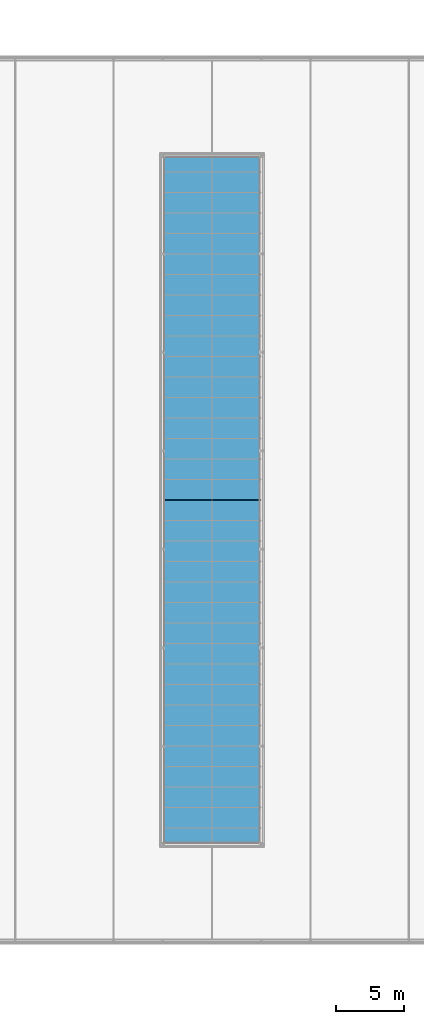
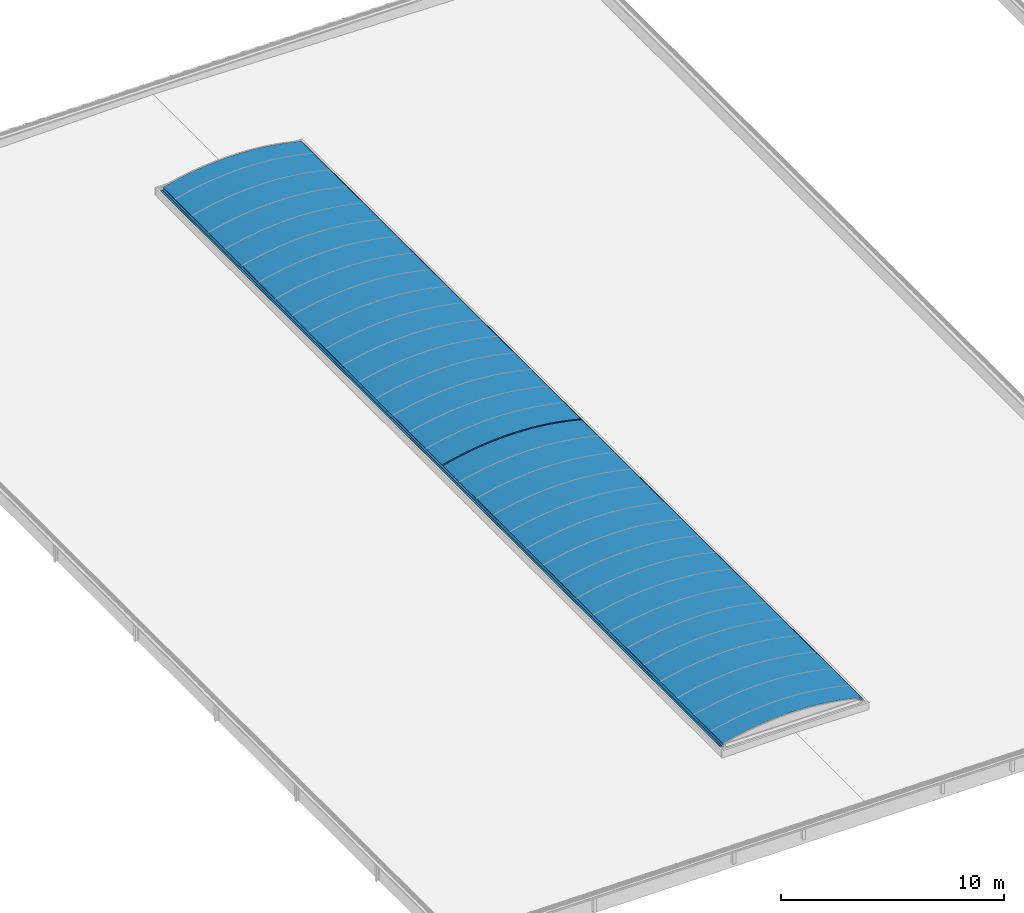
# One storey, part 41 of 81: 2 beams.
"""IFC2X3 building model written with IfcOpenShell, lengths in millimetres."""

import ifcopenshell
import ifcopenshell.guid

model = None  # the IFC model being written
_history = None  # IfcOwnerHistory: only IFC2X3 demands one
_inside = {}  # id of a spatial element -> (the spatial element, [elements in it])
_under = {}  # id of a project, library or spatial element -> (it, [spatial elements below it])
_declared = {}  # id of a project -> (the project, [libraries it declares])
_typed = {}  # id of a type object -> (the type object, [elements of that type])
_made_of = {}  # id of a material, layer set ... -> (it, [elements and type objects made of it])


def new_model(schema):
    """Start an empty IFC model of exactly this schema.

    Asked for "IFC4X3", IfcOpenShell would pick the latest addendum, in which some entities
    have other attributes; the version numbers below select the first issue.
    IFC2X3 requires an IfcOwnerHistory on every rooted entity: one is made here for all.
    """
    global model, _history
    if schema == "IFC4X3":
        model = ifcopenshell.file(schema_version=(4, 3, 0, 0))
    else:
        model = ifcopenshell.file(schema=schema)
    _inside.clear()
    _under.clear()
    _declared.clear()
    _typed.clear()
    _made_of.clear()
    _history = None
    if model.schema == "IFC2X3":
        org = make("IfcOrganization", Name="unknown")
        user = make(
            "IfcPersonAndOrganization",
            ThePerson=make("IfcPerson", FamilyName="unknown"),
            TheOrganization=org,
        )
        app = make(
            "IfcApplication",
            ApplicationDeveloper=org,
            Version="unknown",
            ApplicationFullName="unknown",
            ApplicationIdentifier="unknown",
        )
        _history = make(
            "IfcOwnerHistory",
            OwningUser=user,
            OwningApplication=app,
            ChangeAction="ADDED",
            CreationDate=0,
        )
    return model


def make(cls, **values):
    """One entity of the class cls with the attributes given. An attribute that is None is left unset."""
    return model.create_entity(
        cls, **{name: value for name, value in values.items() if value is not None}
    )


def entity(cls, *values):
    """Any entity or typed value of the class cls, its attributes in the order of the schema. None: left unset."""
    e = model.create_entity(cls)
    for i, value in enumerate(values):
        if value is not None:
            e[i] = value
    return e


def rooted(cls, **values):
    """An entity with a GlobalId (a new one), such as an element, a storey or a relation."""
    return make(cls, GlobalId=ifcopenshell.guid.new(), OwnerHistory=_history, **values)


def si_unit(unit_type, name, prefix=None):
    """IfcSIUnit, for example si_unit("LENGTHUNIT", "METRE", prefix="MILLI")."""
    return make("IfcSIUnit", UnitType=unit_type, Prefix=prefix, Name=name)


def converted_unit(unit_type, name, factor, base, dimensions=None, offset=None):
    """IfcConversionBasedUnit, such as the inch: factor (a typed value) times the base unit."""
    return make(
        "IfcConversionBasedUnit"
        if offset is None
        else "IfcConversionBasedUnitWithOffset",
        ConversionOffset=offset,
        Dimensions=None
        if dimensions is None
        else entity("IfcDimensionalExponents", *dimensions),
        UnitType=unit_type,
        Name=name,
        ConversionFactor=make(
            "IfcMeasureWithUnit", ValueComponent=factor, UnitComponent=base
        ),
    )


def derived_unit(unit_type, elements):
    """IfcDerivedUnit: a product of units, each with its exponent."""
    return make(
        "IfcDerivedUnit",
        Elements=[
            make("IfcDerivedUnitElement", Unit=unit, Exponent=power)
            for unit, power in elements
        ],
        UnitType=unit_type,
    )


def money_unit(currency):
    """IfcMonetaryUnit."""
    return make("IfcMonetaryUnit", Currency=currency)


def assignment(units):
    """IfcUnitAssignment: the units of a project."""
    return None if units is None else make("IfcUnitAssignment", Units=units)


def point(xyz):
    """IfcCartesianPoint."""
    return None if xyz is None else make("IfcCartesianPoint", Coordinates=xyz)


def direction(xyz):
    """IfcDirection."""
    return None if xyz is None else make("IfcDirection", DirectionRatios=xyz)


def frame(location, z_axis=None, x_axis=None):
    """IfcAxis2Placement3D, a coordinate frame: its origin and axes. An axis left out is left unset."""
    return make(
        "IfcAxis2Placement3D",
        Location=point(location),
        Axis=direction(z_axis),
        RefDirection=direction(x_axis),
    )


def origin_with_axes():
    """The frame at (0, 0, 0) with the z axis (0, 0, 1) and the x axis (1, 0, 0) written out."""
    return frame((0.0, 0.0, 0.0), z_axis=(0.0, 0.0, 1.0), x_axis=(1.0, 0.0, 0.0))


def place(relative_to, where):
    """IfcLocalPlacement: puts the frame where relative to a parent placement (None: the world)."""
    return make(
        "IfcLocalPlacement", PlacementRelTo=relative_to, RelativePlacement=where
    )


def context(
    kind, dimensions, precision=None, world=None, true_north=None, identifier=None
):
    """IfcGeometricRepresentationContext, for example the 3D "Model" context."""
    return make(
        "IfcGeometricRepresentationContext",
        ContextIdentifier=identifier,
        ContextType=kind,
        CoordinateSpaceDimension=dimensions,
        Precision=precision,
        WorldCoordinateSystem=world,
        TrueNorth=true_north,
    )


def subcontext(parent, identifier, kind, view, scale=None):
    """IfcGeometricRepresentationSubContext, for example "Body" below "Model"."""
    return make(
        "IfcGeometricRepresentationSubContext",
        ContextIdentifier=identifier,
        ContextType=kind,
        ParentContext=parent,
        TargetScale=scale,
        TargetView=view,
    )


def project(units=None, contexts=None):
    """IfcProject with its units and contexts."""
    return rooted(
        "IfcProject",
        Name="project",
        RepresentationContexts=contexts,
        UnitsInContext=assignment(units),
    )


def spatial(cls, under=None, at=None, **own):
    """A site, building, storey or space (cls), placed at a placement, below another one or the project."""
    s = rooted(cls, ObjectPlacement=at, **own)
    if under is not None:
        _under.setdefault(under.id(), (under, []))[1].append(s)
    return s


def faces_of(points, faces, orient=None, outer=None):
    """IfcFace entities. A face is a list of loops; a loop is a list of indices into points, from 0.

    orient and outer hold one flag for each loop. By default every Orientation is true, the
    first loop of a face is its IfcFaceOuterBound and the others are IfcFaceBound.
    """
    made = []
    for i, loops in enumerate(faces):
        bounds = []
        for j, loop in enumerate(loops):
            is_outer = j == 0 if outer is None else outer[i][j]
            bounds.append(
                make(
                    "IfcFaceOuterBound" if is_outer else "IfcFaceBound",
                    Bound=make("IfcPolyLoop", Polygon=[points[k] for k in loop]),
                    Orientation=True if orient is None else orient[i][j],
                )
            )
        made.append(make("IfcFace", Bounds=bounds))
    return made


def faceted_brep(points, faces, orient=None, outer=None, voids=None):
    """IfcFacetedBrep: a solid bounded by flat faces; with voids (closed shells), ...WithVoids."""
    shared = [point(p) for p in points]
    hull = make("IfcClosedShell", CfsFaces=faces_of(shared, faces, orient, outer))
    if voids is None:
        return make("IfcFacetedBrep", Outer=hull)
    return make(
        "IfcFacetedBrepWithVoids",
        Outer=hull,
        Voids=[
            make(cls, CfsFaces=faces_of(shared, fs, o, b)) for cls, fs, o, b in voids
        ],
    )


def shape(context_of_items, identifier, shape_type, items):
    """IfcShapeRepresentation: the items that make up one representation, for example the "Body"."""
    return make(
        "IfcShapeRepresentation",
        ContextOfItems=context_of_items,
        RepresentationIdentifier=identifier,
        RepresentationType=shape_type,
        Items=items,
    )


def material(Name=None, Category=None):
    """IfcMaterial."""
    return make("IfcMaterial", Name=Name, Category=Category)


def material_list(materials):
    """IfcMaterialList."""
    return make("IfcMaterialList", Materials=materials)


def made_of(thing, what):
    """Note that an element or type object is made of a material, layer set ...; save() writes the relation."""
    if what is not None:
        _made_of.setdefault(what.id(), (what, []))[1].append(thing)
    return thing


def type_object(cls, material=None, **own):
    """A type object (cls), such as IfcWallType, which elements share."""
    return made_of(rooted(cls, **own), material)


def element(
    cls,
    number,
    at=None,
    inside=None,
    cuts=None,
    type_object=None,
    material=None,
    context=None,
    identifier="Body",
    shape_type=None,
    held_by="IfcProductDefinitionShape",
    body=None,
    shapes=None,
    **own,
):
    """One element of the class cls, such as IfcWall. Its Tag is "e" and its number.

    at: its placement. inside: the storey or other place that contains it. cuts: it is an
    opening in that element (IfcRelVoidsElement). A single representation is given by context,
    identifier, shape_type and body (its items); several are given by shapes. held_by: the class
    of the entity that holds the representations. save() writes the other relations.
    """
    e = rooted(cls, Tag="e%d" % number, ObjectPlacement=at, **own)
    if body is not None:
        shapes = [shape(context, identifier, shape_type, body)]
    if shapes is not None:
        e.Representation = make(held_by, Representations=shapes)
    if inside is not None:
        _inside.setdefault(inside.id(), (inside, []))[1].append(e)
    if cuts is not None:
        rooted(
            "IfcRelVoidsElement", RelatingBuildingElement=cuts, RelatedOpeningElement=e
        )
    if type_object is not None:
        _typed.setdefault(type_object.id(), (type_object, []))[1].append(e)
    return made_of(e, material)


def aggregate(whole, parts):
    """IfcRelAggregates: a whole, such as a stair, and the parts it consists of."""
    return rooted("IfcRelAggregates", RelatingObject=whole, RelatedObjects=parts)


def save(model, path):
    """Write the relations noted so far, then the file.

    IfcRelAggregates (storeys below a building ...), IfcRelContainedInSpatialStructure (elements
    in a storey), IfcRelDefinesByType, IfcRelAssociatesMaterial and IfcRelDeclares: one each for
    every whole, place, type object, material and project.
    """
    for whole, parts in _under.values():
        aggregate(whole, parts)
    for where, things in _inside.values():
        rooted(
            "IfcRelContainedInSpatialStructure",
            RelatedElements=things,
            RelatingStructure=where,
        )
    for kind, things in _typed.values():
        rooted("IfcRelDefinesByType", RelatedObjects=things, RelatingType=kind)
    for what, things in _made_of.values():
        rooted("IfcRelAssociatesMaterial", RelatedObjects=things, RelatingMaterial=what)
    for by, libraries in _declared.values():
        rooted("IfcRelDeclares", RelatingContext=by, RelatedDefinitions=libraries)
    model.write(path)


model = new_model("IFC2X3")

# Units and contexts
model_context = context("Model", 3, precision=0.01, world=origin_with_axes(), true_north=direction((0.0, 1.0)))
body_context = subcontext(model_context, "Body", "Model", "MODEL_VIEW")
ifc_project = project(units=[si_unit("LENGTHUNIT", "METRE", prefix="MILLI"), si_unit("AREAUNIT", "SQUARE_METRE"), si_unit("VOLUMEUNIT", "CUBIC_METRE"), converted_unit("PLANEANGLEUNIT", "DEGREE", entity("IfcPlaneAngleMeasure", 0.0174532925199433), si_unit("PLANEANGLEUNIT", "RADIAN"), dimensions=[0, 0, 0, 0, 0, 0, 0]), money_unit("EUR"), converted_unit("TIMEUNIT", "Year", entity("IfcTimeMeasure", 31557600.0), si_unit("TIMEUNIT", "SECOND"), dimensions=[0, 0, 1, 0, 0, 0, 0]), si_unit("MASSUNIT", "GRAM", prefix="KILO"), si_unit("THERMODYNAMICTEMPERATUREUNIT", "DEGREE_CELSIUS"), si_unit("LUMINOUSINTENSITYUNIT", "LUMEN"), si_unit("ENERGYUNIT", "JOULE", prefix="MEGA"), derived_unit("THERMALCONDUCTANCEUNIT", [(si_unit("POWERUNIT", "WATT"), 1), (si_unit("LENGTHUNIT", "METRE"), -1), (si_unit("THERMODYNAMICTEMPERATUREUNIT", "KELVIN"), -1)]), derived_unit("SPECIFICHEATCAPACITYUNIT", [(si_unit("ENERGYUNIT", "JOULE"), 1), (si_unit("MASSUNIT", "GRAM", prefix="KILO"), -1), (si_unit("THERMODYNAMICTEMPERATUREUNIT", "KELVIN"), -1)]), derived_unit("MASSDENSITYUNIT", [(si_unit("MASSUNIT", "GRAM", prefix="KILO"), 1), (si_unit("VOLUMEUNIT", "CUBIC_METRE"), -1)])], contexts=[model_context])

# Site, building, storey
site_placement = place(None, origin_with_axes())
site = spatial("IfcSite", under=ifc_project, at=site_placement, Name="Site", CompositionType="ELEMENT")
building_placement = place(site_placement, origin_with_axes())
building = spatial("IfcBuilding", under=site, at=building_placement, Name="Naam gebouw", CompositionType="ELEMENT")
storey_placement = place(building_placement, frame((0.0, 0.0, 15320.0), z_axis=(0.0, 0.0, 1.0), x_axis=(1.0, 0.0, 0.0)))
storey = spatial("IfcBuildingStorey", under=building, at=storey_placement, Name="01 dak", CompositionType="ELEMENT", Elevation=15320.0)

# Beams
ifc_material_1 = material(Name="Kunststof - massief")
ifc_material_2 = material(Name="Metaal - Aluminium AFW")
ifc_material_3 = material(Name="Hout - Dak")
ifc_material_list_1 = material_list([ifc_material_1, ifc_material_2, ifc_material_2, ifc_material_2, ifc_material_2, ifc_material_2, ifc_material_2, ifc_material_3, ifc_material_3, ifc_material_3, ifc_material_3, ifc_material_3, ifc_material_3])
beam_type_1 = type_object("IfcBeamType", Name="lichtstraat polycarbonaat (polycarbonaat) 7420 x 665", PredefinedType="BEAM")
beam_1_placement = place(storey_placement, frame((46900.00000000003, 37315.0, 559.9999999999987), z_axis=(0.0, 0.0, 1.0), x_axis=(1.0, 0.0, 0.0)))
element("IfcBeam", 1, at=beam_1_placement, inside=storey, type_object=beam_type_1, material=ifc_material_list_1, Name="lichtstraat", ObjectType="BEAM", context=body_context, shape_type="Brep", body=[
    faceted_brep([(3528.000000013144, 0.0, 213.4415530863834), (3587.947861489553, 0.0, 197.6891067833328), (3587.947861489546, 50170.00000000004, 197.6891067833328), (3528.000000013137, 50170.00000000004, 213.4415530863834), (-2943.448443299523, 0.0, 337.3385317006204), (-2620.519461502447, 0.0, 402.8192257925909), (-2296.138887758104, 0.0, 460.6819250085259), (-1970.486407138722, 0.0, 510.8945772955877), (-1643.742409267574, 0.0, 553.4293682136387), (-1316.087888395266, 0.0, 588.2627363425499), (-987.7043431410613, 0.0, 615.375386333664), (-658.7736759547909, 0.0, 634.7522995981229), (-329.4780923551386, 0.0, 646.3827426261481), (0.0, 0.0, 650.2602729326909), (329.4780923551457, 0.0, 646.3827426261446), (658.7736759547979, 0.0, 634.7522995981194), (987.7043431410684, 0.0, 615.375386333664), (1316.087888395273, 0.0, 588.2627363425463), (1643.742409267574, 0.0, 553.4293682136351), (1970.486407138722, 0.0, 510.8945772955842), (2296.138887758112, 0.0, 460.6819250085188), (2620.519461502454, 0.0, 402.8192257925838), (2943.44844329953, 0.0, 337.3385317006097), (3264.746952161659, 0.0, 264.2761146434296), (3584.237010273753, 0.0, 183.6724462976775), (3213.322878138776, 0.0, 291.5053933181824), (2896.922437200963, 0.0, 362.2614189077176), (2578.968364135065, 0.0, 425.6716830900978), (2259.631179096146, 0.0, 481.702178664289), (1939.082144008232, 0.0, 530.3228562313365), (1617.493170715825, 0.0, 571.5076403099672), (1295.036728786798, 0.0, 605.2344433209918), (971.8857530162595, 0.0, 631.4851774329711), (648.213550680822, 0.0, 650.2457642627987), (324.1937085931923, 0.0, 661.5061424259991), (6.778577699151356e-09, 0.0, 665.2602729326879), (-324.1937085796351, 0.0, 661.5061424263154), (-648.2135506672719, 0.0, 650.2457642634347), (-971.8857530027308, 0.0, 631.4851774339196), (-1295.036728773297, 0.0, 605.2344433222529), (-1617.493170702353, 0.0, 571.5076403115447), (-1939.082143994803, 0.0, 530.32285623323), (-2259.631179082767, 0.0, 481.7021786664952), (-2578.968364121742, 0.0, 425.6716830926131), (-2896.922437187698, 0.0, 362.2614189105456), (-3213.322878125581, 0.0, 291.5053933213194), (-3528.00000000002, 0.0, 213.4415530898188), (-3533.000000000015, 0.0, 212.1385480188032), (-3587.947861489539, 0.0, 197.6891067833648), (-3584.237010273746, 0.0, 183.6724462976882), (-3264.746952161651, 0.0, 264.2761146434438), (3584.237010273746, 50170.00000000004, 183.6724462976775), (-2896.922437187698, 50170.00000000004, 362.2614189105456), (-2578.968364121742, 50170.00000000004, 425.6716830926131), (-2259.631179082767, 50170.00000000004, 481.7021786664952), (-1939.08214399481, 50170.00000000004, 530.32285623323), (-1617.493170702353, 50170.00000000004, 571.5076403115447), (-1295.036728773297, 50170.00000000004, 605.2344433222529), (-971.8857530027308, 50170.00000000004, 631.4851774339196), (-648.213550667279, 50170.00000000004, 650.2457642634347), (-324.1937085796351, 50170.00000000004, 661.5061424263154), (6.778577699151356e-09, 50170.00000000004, 665.2602729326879), (324.1937085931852, 50170.00000000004, 661.5061424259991), (648.2135506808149, 50170.00000000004, 650.2457642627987), (971.8857530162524, 50170.00000000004, 631.4851774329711), (1295.03672878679, 50170.00000000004, 605.2344433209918), (1617.493170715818, 50170.00000000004, 571.5076403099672), (1939.082144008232, 50170.00000000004, 530.3228562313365), (2259.631179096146, 50170.00000000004, 481.702178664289), (2578.968364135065, 50170.00000000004, 425.6716830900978), (2896.922437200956, 50170.00000000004, 362.2614189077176), (3213.322878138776, 50170.00000000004, 291.5053933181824), (3264.746952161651, 50170.00000000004, 264.2761146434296), (2943.448443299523, 50170.00000000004, 337.3385317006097), (2620.519461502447, 50170.00000000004, 402.8192257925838), (2296.138887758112, 50170.00000000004, 460.6819250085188), (1970.486407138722, 50170.00000000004, 510.8945772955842), (1643.742409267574, 50170.00000000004, 553.4293682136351), (1316.087888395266, 50170.00000000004, 588.2627363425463), (987.7043431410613, 50170.00000000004, 615.375386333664), (658.7736759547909, 50170.00000000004, 634.7522995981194), (329.4780923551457, 50170.00000000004, 646.3827426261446), (0.0, 50170.00000000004, 650.2602729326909), (-329.4780923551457, 50170.00000000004, 646.3827426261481), (-658.7736759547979, 50170.00000000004, 634.7522995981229), (-987.7043431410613, 50170.00000000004, 615.375386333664), (-1316.087888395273, 50170.00000000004, 588.2627363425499), (-1643.742409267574, 50170.00000000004, 553.4293682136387), (-1970.486407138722, 50170.00000000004, 510.8945772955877), (-2296.138887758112, 50170.00000000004, 460.6819250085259), (-2620.519461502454, 50170.00000000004, 402.8192257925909), (-2943.44844329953, 50170.00000000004, 337.3385317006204), (-3264.746952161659, 50170.00000000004, 264.2761146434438), (-3584.237010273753, 50170.00000000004, 183.6724462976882), (-3587.947861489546, 50170.00000000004, 197.6891067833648), (-3533.000000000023, 50170.00000000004, 212.1385480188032), (-3528.000000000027, 50170.00000000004, 213.4415530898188), (-3213.322878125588, 50170.00000000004, 291.5053933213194)], [[[0, 1, 2, 3]], [[4, 5, 6, 7, 8, 9, 10, 11, 12, 13, 14, 15, 16, 17, 18, 19, 20, 21, 22, 23, 24, 1, 0, 25, 26, 27, 28, 29, 30, 31, 32, 33, 34, 35, 36, 37, 38, 39, 40, 41, 42, 43, 44, 45, 46, 47, 48, 49, 50]], [[1, 24, 51, 2]], [[52, 53, 54, 55, 56, 57, 58, 59, 60, 61, 62, 63, 64, 65, 66, 67, 68, 69, 70, 71, 3, 2, 51, 72, 73, 74, 75, 76, 77, 78, 79, 80, 81, 82, 83, 84, 85, 86, 87, 88, 89, 90, 91, 92, 93, 94, 95, 96, 97]], [[25, 0, 3, 71]], [[5, 4, 91, 90]], [[6, 5, 90, 89]], [[7, 6, 89, 88]], [[8, 7, 88, 87]], [[9, 8, 87, 86]], [[10, 9, 86, 85]], [[11, 10, 85, 84]], [[12, 11, 84, 83]], [[13, 12, 83, 82]], [[14, 13, 82, 81]], [[15, 14, 81, 80]], [[16, 15, 80, 79]], [[17, 16, 79, 78]], [[18, 17, 78, 77]], [[19, 18, 77, 76]], [[20, 19, 76, 75]], [[21, 20, 75, 74]], [[22, 21, 74, 73]], [[23, 22, 73, 72]], [[24, 23, 72, 51]], [[26, 25, 71, 70]], [[27, 26, 70, 69]], [[28, 27, 69, 68]], [[29, 28, 68, 67]], [[30, 29, 67, 66]], [[31, 30, 66, 65]], [[32, 31, 65, 64]], [[33, 32, 64, 63]], [[34, 33, 63, 62]], [[35, 34, 62, 61]], [[36, 35, 61, 60]], [[37, 36, 60, 59]], [[38, 37, 59, 58]], [[39, 38, 58, 57]], [[40, 39, 57, 56]], [[41, 40, 56, 55]], [[42, 41, 55, 54]], [[43, 42, 54, 53]], [[44, 43, 53, 52]], [[45, 44, 52, 97]], [[46, 45, 97, 96]], [[47, 46, 96, 95]], [[48, 47, 95, 94]], [[49, 48, 94, 93]], [[50, 49, 93, 92]], [[4, 50, 92, 91]]]),
    faceted_brep([(-3625.153752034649, 22.49999999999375, 58.00000032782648), (-3710.000000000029, 22.49999999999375, 58.00000032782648), (-3710.000000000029, 50147.50000000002, 58.00000032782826), (-3625.153752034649, 50147.50000000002, 58.00000032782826), (-3627.224816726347, 22.49999999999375, 62.99999938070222), (-3710.000000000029, 22.49999999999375, 62.99999938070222), (-3710.000000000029, 50147.50000000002, 62.99999938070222), (-3627.224816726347, 50147.50000000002, 62.99999938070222)], [[[0, 1, 2, 3]], [[1, 0, 4, 5]], [[1, 5, 6, 2]], [[2, 6, 7, 3]], [[4, 0, 3, 7]], [[5, 4, 7, 6]]]),
    faceted_brep([(-3528.000000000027, 22.49999999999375, 193.4415530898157), (-3528.000000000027, 22.49999999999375, 184.0000000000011), (-3528.000000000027, 50147.50000000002, 184.0000000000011), (-3528.000000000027, 50147.50000000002, 193.4415530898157), (-3533.000000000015, 22.49999999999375, 192.1385480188), (-3532.999997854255, 22.49999999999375, 157.2248178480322), (-3527.999999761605, 22.49999999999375, 155.1537485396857), (-3527.999999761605, 50147.50000000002, 155.1537485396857), (-3532.999997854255, 50147.50000000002, 157.2248178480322), (-3533.000000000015, 50147.50000000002, 192.1385480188)], [[[0, 1, 2, 3]], [[4, 5, 6, 1, 0]], [[1, 6, 7, 2]], [[8, 9, 3, 2, 7]], [[4, 0, 3, 9]], [[5, 4, 9, 8]], [[6, 5, 8, 7]]]),
    faceted_brep([(-3527.999999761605, 22.49999999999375, 155.1537485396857), (-3625.153750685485, 22.49999999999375, 58.00000035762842), (-3625.153750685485, 50147.50000000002, 58.00000035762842), (-3527.999999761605, 50147.50000000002, 155.1537485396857), (-3532.999997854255, 22.49999999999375, 157.2248178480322), (-3627.224817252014, 22.49999999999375, 62.99999845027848), (-3627.224817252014, 50147.50000000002, 62.99999845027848), (-3532.999997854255, 50147.50000000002, 157.2248178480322)], [[[0, 1, 2, 3]], [[1, 0, 4, 5]], [[1, 5, 6, 2]], [[2, 6, 7, 3]], [[4, 0, 3, 7]], [[5, 4, 7, 6]]]),
    faceted_brep([(3709.999999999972, 22.49999999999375, 62.99999939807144), (3709.999999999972, 22.49999999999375, 58.00000032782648), (3709.999999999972, 50147.50000000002, 58.00000032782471), (3709.999999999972, 50147.50000000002, 62.99999939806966), (3627.224816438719, 22.49999999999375, 62.99999939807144), (3625.15374902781, 22.49999999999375, 58.00000032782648), (3625.15374902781, 50147.50000000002, 58.00000032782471), (3627.224816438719, 50147.50000000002, 62.99999939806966)], [[[0, 1, 2, 3]], [[1, 0, 4, 5]], [[1, 5, 6, 2]], [[2, 6, 7, 3]], [[4, 0, 3, 7]], [[5, 4, 7, 6]]]),
    faceted_brep([(3532.999999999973, 22.49999999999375, 192.1385480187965), (3532.999999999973, 22.49999999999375, 157.2248175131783), (3532.999999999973, 50147.50000000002, 157.2248175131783), (3532.999999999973, 50147.50000000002, 192.1385480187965), (3527.999999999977, 22.49999999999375, 193.4415530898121), (3527.999999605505, 22.49999999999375, 184.0000003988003), (3527.999999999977, 22.49999999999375, 155.1537497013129), (3527.999999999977, 50147.50000000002, 155.1537497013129), (3527.999999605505, 50147.50000000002, 184.0000003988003), (3527.999999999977, 50147.50000000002, 193.4415530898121)], [[[0, 1, 2, 3]], [[4, 5, 6, 1, 0]], [[1, 6, 7, 2]], [[8, 9, 3, 2, 7]], [[4, 0, 3, 9]], [[5, 4, 9, 8]], [[6, 5, 8, 7]]]),
    faceted_brep([(3627.224816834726, 22.49999999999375, 62.99999858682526), (3625.153750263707, 22.49999999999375, 58.00000048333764), (3625.153750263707, 50147.50000000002, 58.00000048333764), (3627.224816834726, 50147.50000000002, 62.99999858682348), (3532.999999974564, 22.49999999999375, 157.2248181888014), (3527.999999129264, 22.49999999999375, 155.1537488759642), (3527.999999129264, 50147.50000000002, 155.1537488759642), (3532.999999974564, 50147.50000000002, 157.2248181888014)], [[[0, 1, 2, 3]], [[1, 0, 4, 5]], [[1, 5, 6, 2]], [[2, 6, 7, 3]], [[4, 0, 3, 7]], [[5, 4, 7, 6]]]),
    faceted_brep([(-3490.000000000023, 50147.50000000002, 0.0), (-3490.000000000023, 50147.50000000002, 184.0000000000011), (-3490.000000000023, 22.49999999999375, 184.0000000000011), (-3490.000000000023, 22.49999999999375, 0.0), (-3528.000000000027, 50147.50000000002, 184.0000000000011), (-3528.000000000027, 50147.50000000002, 0.0), (-3528.000000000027, 50147.50000000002, 128.0000000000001), (-3527.999999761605, 50147.50000000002, 155.1537485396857), (-3528.000000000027, 22.49999999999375, 184.0000000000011), (-3528.000000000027, 22.49999999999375, 0.0), (-3527.999999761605, 22.49999999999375, 155.1537485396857), (-3528.000000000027, 22.49999999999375, 128.0000000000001)], [[[0, 1, 2, 3]], [[4, 1, 0, 5, 6, 7]], [[1, 4, 8, 2]], [[9, 3, 2, 8, 10, 11]], [[5, 0, 3, 9]], [[6, 5, 9, 11]], [[7, 6, 11, 10]], [[4, 7, 10, 8]]]),
    faceted_brep([(-3528.00000000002, 50147.50000000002, 0.0), (-3528.00000000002, 50147.50000000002, 58.00000032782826), (-3528.00000000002, 22.49999999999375, 58.00000032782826), (-3528.00000000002, 22.49999999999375, 0.0), (-3598.000000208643, 50147.50000000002, 58.00000032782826), (-3710.000000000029, 50147.50000000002, 0.0), (-3710.000000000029, 50147.50000000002, 58.00000032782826), (-3625.153752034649, 50147.50000000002, 58.00000032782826), (-3598.000000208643, 22.49999999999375, 58.00000032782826), (-3710.000000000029, 22.49999999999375, 0.0), (-3625.153752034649, 22.49999999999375, 58.00000032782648), (-3710.000000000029, 22.49999999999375, 58.00000032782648)], [[[0, 1, 2, 3]], [[4, 1, 0, 5, 6, 7]], [[1, 4, 8, 2]], [[9, 3, 2, 8, 10, 11]], [[5, 0, 3, 9]], [[6, 5, 9, 11]], [[7, 6, 11, 10]], [[4, 7, 10, 8]]]),
    faceted_brep([(-3528.00000000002, 50147.50000000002, 57.99999999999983), (-3528.00000000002, 50147.50000000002, 128.0000000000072), (-3528.00000000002, 22.49999999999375, 128.0000000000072), (-3528.00000000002, 22.49999999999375, 57.99999999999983), (-3598.000000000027, 50147.50000000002, 57.99999999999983), (-3598.000000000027, 22.49999999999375, 57.99999999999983)], [[[0, 1, 2, 3]], [[4, 1, 0]], [[1, 4, 5, 2]], [[5, 3, 2]], [[4, 0, 3, 5]]]),
    faceted_brep([(3527.999999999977, 50147.50000000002, 155.1537497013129), (3527.999999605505, 50147.50000000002, 184.0000003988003), (3527.999999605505, 22.49999999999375, 184.0000003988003), (3527.999999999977, 22.49999999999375, 155.1537497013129), (3489.999999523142, 50147.50000000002, 184.0000003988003), (3527.999999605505, 50147.50000000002, 128.000000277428), (3527.999999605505, 50147.50000000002, 0.0), (3489.999999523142, 50147.50000000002, 0.0), (3489.999999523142, 22.49999999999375, 184.0000003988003), (3527.999999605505, 22.49999999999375, 128.000000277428), (3489.999999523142, 22.49999999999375, 0.0), (3527.999999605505, 22.49999999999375, 0.0)], [[[0, 1, 2, 3]], [[4, 1, 0, 5, 6, 7]], [[1, 4, 8, 2]], [[9, 3, 2, 8, 10, 11]], [[5, 0, 3, 9]], [[6, 5, 9, 11]], [[7, 6, 11, 10]], [[4, 7, 10, 8]]]),
    faceted_brep([(3709.999999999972, 50147.50000000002, 0.0), (3709.999999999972, 50147.50000000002, 58.00000032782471), (3709.999999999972, 22.49999999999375, 58.00000032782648), (3709.999999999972, 22.49999999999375, 0.0), (3625.15374902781, 50147.50000000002, 58.00000032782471), (3527.999999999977, 50147.50000000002, 0.0), (3527.999999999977, 50147.50000000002, 58.00000032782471), (3598.000000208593, 50147.50000000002, 58.00000032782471), (3625.15374902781, 22.49999999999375, 58.00000032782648), (3527.999999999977, 22.49999999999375, 0.0), (3598.000000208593, 22.49999999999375, 58.00000032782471), (3527.999999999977, 22.49999999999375, 58.00000032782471)], [[[0, 1, 2, 3]], [[4, 1, 0, 5, 6, 7]], [[1, 4, 8, 2]], [[9, 3, 2, 8, 10, 11]], [[5, 0, 3, 9]], [[6, 5, 9, 11]], [[7, 6, 11, 10]], [[4, 7, 10, 8]]]),
    faceted_brep([(3527.999999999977, 50147.50000000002, 57.99999999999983), (3597.999999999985, 50147.50000000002, 57.99999999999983), (3597.999999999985, 22.49999999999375, 57.99999999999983), (3527.999999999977, 22.49999999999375, 57.99999999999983), (3527.999999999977, 50147.50000000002, 128.0000000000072), (3527.999999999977, 22.49999999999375, 128.0000000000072)], [[[0, 1, 2, 3]], [[4, 1, 0]], [[1, 4, 5, 2]], [[5, 3, 2]], [[4, 0, 3, 5]]]),
])
ifc_material_list_2 = material_list([ifc_material_2, ifc_material_2])
beam_type_2 = type_object("IfcBeamType", Name="lichtstraat polycarbonaat (constructie) 7420 x 670", PredefinedType="BEAM")
beam_2_placement = place(storey_placement, frame((46900.00000000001, 62362.50000000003, 559.9999999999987), z_axis=(0.0, 0.0, 1.0), x_axis=(1.0, 0.0, 0.0)))
element("IfcBeam", 2, at=beam_2_placement, inside=storey, type_object=beam_type_2, material=ifc_material_list_2, Name="Plafondafwerking 3", ObjectType="BEAM", context=body_context, shape_type="Brep", body=[
    faceted_brep([(-3532.999999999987, 0.0, 192.1385480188), (-3582.999999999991, 0.0, 179.000000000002), (-3582.999999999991, 75.00000000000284, 179.000000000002), (-3532.999999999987, 75.00000000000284, 192.1385480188), (-3264.746952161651, 0.0, 264.2761146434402), (-3584.237010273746, 0.0, 183.6724462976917), (-3527.999999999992, 0.0, 193.4415530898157), (-3213.322878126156, 0.0, 271.5053933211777), (-2896.922437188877, 0.0, 342.2614189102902), (-2578.968364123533, 0.0, 405.6716830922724), (-2259.631179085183, 0.0, 461.7021786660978), (-1939.082143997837, 0.0, 510.3228562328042), (-1617.493170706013, 0.0, 551.5076403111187), (-1295.036728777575, 0.0, 585.2344433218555), (-971.8857530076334, 0.0, 611.485177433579), (-648.2135506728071, 0.0, 630.2457642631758), (-324.1937085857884, 0.0, 641.5061424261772), (0.0, 0.0, 645.2602729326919), (324.1937085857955, 0.0, 641.5061424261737), (648.2135506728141, 0.0, 630.2457642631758), (971.8857530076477, 0.0, 611.4851774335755), (1295.036728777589, 0.0, 585.2344433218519), (1617.49317070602, 0.0, 551.5076403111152), (1939.082143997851, 0.0, 510.3228562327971), (2259.63117908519, 0.0, 461.7021786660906), (2578.968364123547, 0.0, 405.6716830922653), (2896.922437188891, 0.0, 342.2614189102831), (3213.322878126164, 0.0, 271.5053933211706), (3528.000000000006, 0.0, 193.4415530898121), (3528.000000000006, 0.0, 194.0000000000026), (3533.000000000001, 0.0, 194.0000000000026), (3533.000000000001, 0.0, 192.1385480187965), (3582.999999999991, 0.0, 179.000000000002), (3584.237010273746, 0.0, 183.6724462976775), (3264.746952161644, 0.0, 264.2761146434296), (2943.448443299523, 0.0, 337.3385317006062), (2620.519461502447, 0.0, 402.8192257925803), (2296.138887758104, 0.0, 460.6819250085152), (1970.486407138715, 0.0, 510.8945772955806), (1643.742409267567, 0.0, 553.4293682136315), (1316.087888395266, 0.0, 588.2627363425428), (987.7043431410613, 0.0, 615.3753863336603), (658.7736759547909, 0.0, 634.7522995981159), (329.4780923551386, 0.0, 646.3827426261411), (0.0, 0.0, 650.2602729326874), (-329.4780923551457, 0.0, 646.3827426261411), (-658.7736759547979, 0.0, 634.7522995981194), (-987.7043431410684, 0.0, 615.375386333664), (-1316.087888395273, 0.0, 588.2627363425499), (-1643.742409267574, 0.0, 553.4293682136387), (-1970.486407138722, 0.0, 510.8945772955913), (-2296.138887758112, 0.0, 460.6819250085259), (-2620.519461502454, 0.0, 402.8192257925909), (-2943.44844329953, 0.0, 337.3385317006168), (-3584.237010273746, 75.00000000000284, 183.6724462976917), (-3527.999999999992, 75.00000000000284, 193.4415530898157), (-3264.746952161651, 75.00000000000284, 264.2761146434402), (-2943.44844329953, 75.00000000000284, 337.3385317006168), (-2620.519461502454, 75.00000000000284, 402.8192257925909), (-2296.138887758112, 75.00000000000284, 460.6819250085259), (-1970.486407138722, 75.00000000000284, 510.8945772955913), (-1643.742409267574, 75.00000000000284, 553.4293682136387), (-1316.087888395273, 75.00000000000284, 588.2627363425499), (-987.7043431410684, 75.00000000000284, 615.375386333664), (-658.7736759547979, 75.00000000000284, 634.7522995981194), (-329.4780923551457, 75.00000000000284, 646.3827426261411), (0.0, 75.00000000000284, 650.2602729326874), (329.4780923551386, 75.00000000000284, 646.3827426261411), (658.7736759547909, 75.00000000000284, 634.7522995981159), (987.7043431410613, 75.00000000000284, 615.3753863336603), (1316.087888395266, 75.00000000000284, 588.2627363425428), (1643.742409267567, 75.00000000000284, 553.4293682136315), (1970.486407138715, 75.00000000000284, 510.8945772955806), (2296.138887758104, 75.00000000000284, 460.6819250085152), (2620.519461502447, 75.00000000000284, 402.8192257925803), (2943.448443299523, 75.00000000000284, 337.3385317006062), (3264.746952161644, 75.00000000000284, 264.2761146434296), (3584.237010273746, 75.00000000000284, 183.6724462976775), (3582.999999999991, 75.00000000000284, 179.000000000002), (3533.000000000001, 75.00000000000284, 192.1385480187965), (3533.000000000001, 75.00000000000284, 194.0000000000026), (3528.000000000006, 75.00000000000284, 194.0000000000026), (3528.000000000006, 75.00000000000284, 193.4415530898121), (3213.322878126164, 75.00000000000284, 271.5053933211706), (2896.922437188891, 75.00000000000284, 342.2614189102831), (2578.968364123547, 75.00000000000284, 405.6716830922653), (2259.63117908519, 75.00000000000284, 461.7021786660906), (1939.082143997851, 75.00000000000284, 510.3228562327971), (1617.49317070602, 75.00000000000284, 551.5076403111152), (1295.036728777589, 75.00000000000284, 585.2344433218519), (971.8857530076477, 75.00000000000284, 611.4851774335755), (648.2135506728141, 75.00000000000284, 630.2457642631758), (324.1937085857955, 75.00000000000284, 641.5061424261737), (0.0, 75.00000000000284, 645.2602729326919), (-324.1937085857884, 75.00000000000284, 641.5061424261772), (-648.2135506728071, 75.00000000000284, 630.2457642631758), (-971.8857530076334, 75.00000000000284, 611.485177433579), (-1295.036728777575, 75.00000000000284, 585.2344433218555), (-1617.493170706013, 75.00000000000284, 551.5076403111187), (-1939.082143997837, 75.00000000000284, 510.3228562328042), (-2259.631179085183, 75.00000000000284, 461.7021786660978), (-2578.968364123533, 75.00000000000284, 405.6716830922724), (-2896.922437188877, 75.00000000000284, 342.2614189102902), (-3213.322878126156, 75.00000000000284, 271.5053933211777)], [[[0, 1, 2, 3]], [[4, 5, 1, 0, 6, 7, 8, 9, 10, 11, 12, 13, 14, 15, 16, 17, 18, 19, 20, 21, 22, 23, 24, 25, 26, 27, 28, 29, 30, 31, 32, 33, 34, 35, 36, 37, 38, 39, 40, 41, 42, 43, 44, 45, 46, 47, 48, 49, 50, 51, 52, 53]], [[1, 5, 54, 2]], [[55, 3, 2, 54, 56, 57, 58, 59, 60, 61, 62, 63, 64, 65, 66, 67, 68, 69, 70, 71, 72, 73, 74, 75, 76, 77, 78, 79, 80, 81, 82, 83, 84, 85, 86, 87, 88, 89, 90, 91, 92, 93, 94, 95, 96, 97, 98, 99, 100, 101, 102, 103]], [[6, 0, 3, 55]], [[5, 4, 56, 54]], [[7, 6, 55, 103]], [[8, 7, 103, 102]], [[9, 8, 102, 101]], [[10, 9, 101, 100]], [[11, 10, 100, 99]], [[12, 11, 99, 98]], [[13, 12, 98, 97]], [[14, 13, 97, 96]], [[15, 14, 96, 95]], [[16, 15, 95, 94]], [[17, 16, 94, 93]], [[18, 17, 93, 92]], [[19, 18, 92, 91]], [[20, 19, 91, 90]], [[21, 20, 90, 89]], [[22, 21, 89, 88]], [[23, 22, 88, 87]], [[24, 23, 87, 86]], [[25, 24, 86, 85]], [[26, 25, 85, 84]], [[27, 26, 84, 83]], [[28, 27, 83, 82]], [[29, 28, 82, 81]], [[30, 29, 81, 80]], [[31, 30, 80, 79]], [[32, 31, 79, 78]], [[33, 32, 78, 77]], [[34, 33, 77, 76]], [[35, 34, 76, 75]], [[36, 35, 75, 74]], [[37, 36, 74, 73]], [[38, 37, 73, 72]], [[39, 38, 72, 71]], [[40, 39, 71, 70]], [[41, 40, 70, 69]], [[42, 41, 69, 68]], [[43, 42, 68, 67]], [[44, 43, 67, 66]], [[45, 44, 66, 65]], [[46, 45, 65, 64]], [[47, 46, 64, 63]], [[48, 47, 63, 62]], [[49, 48, 62, 61]], [[50, 49, 61, 60]], [[51, 50, 60, 59]], [[52, 51, 59, 58]], [[53, 52, 58, 57]], [[4, 53, 57, 56]]]),
    faceted_brep([(3269.271727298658, 75.00000000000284, 283.190243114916), (2947.542627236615, 75.00000000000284, 356.4574241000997), (2947.542627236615, 0.0, 356.4574241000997), (3269.271727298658, 0.0, 283.190243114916), (3589.18475202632, 75.00000000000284, 202.3611008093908), (3587.947861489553, 75.00000000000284, 197.6891067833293), (3528.000000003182, 75.00000000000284, 213.4415530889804), (3213.322878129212, 75.00000000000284, 291.505393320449), (2896.922437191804, 75.00000000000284, 362.2614189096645), (2578.968364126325, 75.00000000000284, 425.6716830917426), (2259.631179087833, 75.00000000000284, 481.7021786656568), (1939.082144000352, 75.00000000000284, 530.3228562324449), (1617.493170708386, 75.00000000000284, 571.5076403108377), (1295.036728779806, 75.00000000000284, 605.2344433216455), (971.8857530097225, 75.00000000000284, 631.4851774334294), (648.2135506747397, 75.00000000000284, 650.2457642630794), (324.1937085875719, 75.00000000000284, 661.5061424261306), (1.63424829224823e-09, 75.00000000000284, 665.2602729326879), (-324.1937085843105, 75.00000000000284, 661.5061424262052), (-648.2135506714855, 75.00000000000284, 650.2457642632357), (-971.8857530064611, 75.00000000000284, 631.4851774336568), (-1295.036728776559, 75.00000000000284, 605.2344433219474), (-1617.493170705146, 75.00000000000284, 571.5076403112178), (-1939.082143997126, 75.00000000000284, 530.3228562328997), (-2259.631179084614, 75.00000000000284, 481.7021786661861), (-2578.968364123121, 75.00000000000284, 425.6716830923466), (-2896.922437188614, 75.00000000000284, 362.2614189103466), (-3213.322878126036, 75.00000000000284, 291.5053933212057), (-3528.00000000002, 75.00000000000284, 213.4415530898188), (-3533.000000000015, 75.00000000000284, 212.1385480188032), (-3587.947861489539, 75.00000000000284, 197.6891067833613), (-3589.184752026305, 75.00000000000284, 202.3611008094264), (-3269.271727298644, 75.00000000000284, 283.1902431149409), (-2947.542627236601, 75.00000000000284, 356.4574241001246), (-2624.176171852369, 75.00000000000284, 422.1219439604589), (-2299.351990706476, 75.00000000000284, 480.1473261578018), (-1973.250523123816, 75.00000000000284, 530.5013376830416), (-1646.052917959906, 75.00000000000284, 573.156006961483), (-1317.940932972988, 75.00000000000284, 608.0876393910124), (-989.0968338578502, 75.00000000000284, 635.2768305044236), (-659.7032929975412, 75.00000000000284, 654.7084767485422), (-329.9432879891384, 75.00000000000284, 666.3717838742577), (0.0, 75.00000000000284, 670.2602729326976), (329.9432879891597, 75.00000000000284, 666.3717838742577), (659.7032929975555, 75.00000000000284, 654.7084767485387), (989.0968338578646, 75.00000000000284, 635.2768305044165), (1317.940932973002, 75.00000000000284, 608.0876393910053), (1646.052917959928, 75.00000000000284, 573.1560069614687), (1973.250523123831, 75.00000000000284, 530.5013376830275), (2299.351990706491, 75.00000000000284, 480.147326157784), (2624.176171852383, 75.00000000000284, 422.1219439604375), (2624.176171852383, 0.0, 422.1219439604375), (2299.351990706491, 0.0, 480.147326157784), (1973.250523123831, 0.0, 530.5013376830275), (1646.052917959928, 0.0, 573.1560069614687), (1317.940932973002, 0.0, 608.0876393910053), (989.0968338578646, 0.0, 635.2768305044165), (659.7032929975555, 0.0, 654.7084767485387), (329.9432879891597, 0.0, 666.3717838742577), (0.0, 0.0, 670.2602729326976), (-329.9432879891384, 0.0, 666.3717838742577), (-659.7032929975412, 0.0, 654.7084767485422), (-989.0968338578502, 0.0, 635.2768305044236), (-1317.940932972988, 0.0, 608.0876393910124), (-1646.052917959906, 0.0, 573.156006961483), (-1973.250523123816, 0.0, 530.5013376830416), (-2299.351990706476, 0.0, 480.1473261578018), (-2624.176171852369, 0.0, 422.1219439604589), (-2947.542627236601, 0.0, 356.4574241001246), (-3269.271727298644, 0.0, 283.1902431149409), (-3589.184752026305, 0.0, 202.3611008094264), (-3587.947861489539, 0.0, 197.6891067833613), (-3533.000000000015, 0.0, 212.1385480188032), (-3528.00000000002, 0.0, 213.4415530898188), (-3213.322878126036, 0.0, 291.5053933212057), (-2896.922437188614, 0.0, 362.2614189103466), (-2578.968364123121, 0.0, 425.6716830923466), (-2259.631179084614, 0.0, 481.7021786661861), (-1939.082143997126, 0.0, 530.3228562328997), (-1617.493170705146, 0.0, 571.5076403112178), (-1295.036728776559, 0.0, 605.2344433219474), (-971.8857530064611, 0.0, 631.4851774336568), (-648.2135506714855, 0.0, 650.2457642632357), (-324.1937085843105, 0.0, 661.5061424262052), (1.63424829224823e-09, 0.0, 665.2602729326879), (324.1937085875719, 0.0, 661.5061424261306), (648.2135506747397, 0.0, 650.2457642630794), (971.8857530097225, 0.0, 631.4851774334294), (1295.036728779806, 0.0, 605.2344433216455), (1617.493170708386, 0.0, 571.5076403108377), (1939.082144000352, 0.0, 530.3228562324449), (2259.631179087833, 0.0, 481.7021786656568), (2578.968364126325, 0.0, 425.6716830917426), (2896.922437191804, 0.0, 362.2614189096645), (3213.322878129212, 0.0, 291.505393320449), (3528.000000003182, 0.0, 213.4415530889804), (3587.947861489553, 0.0, 197.6891067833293), (3589.18475202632, 0.0, 202.3611008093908)], [[[0, 1, 2, 3]], [[0, 4, 5, 6, 7, 8, 9, 10, 11, 12, 13, 14, 15, 16, 17, 18, 19, 20, 21, 22, 23, 24, 25, 26, 27, 28, 29, 30, 31, 32, 33, 34, 35, 36, 37, 38, 39, 40, 41, 42, 43, 44, 45, 46, 47, 48, 49, 50, 1]], [[1, 50, 51, 2]], [[3, 2, 51, 52, 53, 54, 55, 56, 57, 58, 59, 60, 61, 62, 63, 64, 65, 66, 67, 68, 69, 70, 71, 72, 73, 74, 75, 76, 77, 78, 79, 80, 81, 82, 83, 84, 85, 86, 87, 88, 89, 90, 91, 92, 93, 94, 95, 96, 97]], [[4, 0, 3, 97]], [[5, 4, 97, 96]], [[6, 5, 96, 95]], [[7, 6, 95, 94]], [[8, 7, 94, 93]], [[9, 8, 93, 92]], [[10, 9, 92, 91]], [[11, 10, 91, 90]], [[12, 11, 90, 89]], [[13, 12, 89, 88]], [[14, 13, 88, 87]], [[15, 14, 87, 86]], [[16, 15, 86, 85]], [[17, 16, 85, 84]], [[18, 17, 84, 83]], [[19, 18, 83, 82]], [[20, 19, 82, 81]], [[21, 20, 81, 80]], [[22, 21, 80, 79]], [[23, 22, 79, 78]], [[24, 23, 78, 77]], [[25, 24, 77, 76]], [[26, 25, 76, 75]], [[27, 26, 75, 74]], [[28, 27, 74, 73]], [[29, 28, 73, 72]], [[30, 29, 72, 71]], [[31, 30, 71, 70]], [[32, 31, 70, 69]], [[33, 32, 69, 68]], [[34, 33, 68, 67]], [[35, 34, 67, 66]], [[36, 35, 66, 65]], [[37, 36, 65, 64]], [[38, 37, 64, 63]], [[39, 38, 63, 62]], [[40, 39, 62, 61]], [[41, 40, 61, 60]], [[42, 41, 60, 59]], [[43, 42, 59, 58]], [[44, 43, 58, 57]], [[45, 44, 57, 56]], [[46, 45, 56, 55]], [[47, 46, 55, 54]], [[48, 47, 54, 53]], [[49, 48, 53, 52]], [[50, 49, 52, 51]]]),
])

save(model, "model.ifc")
